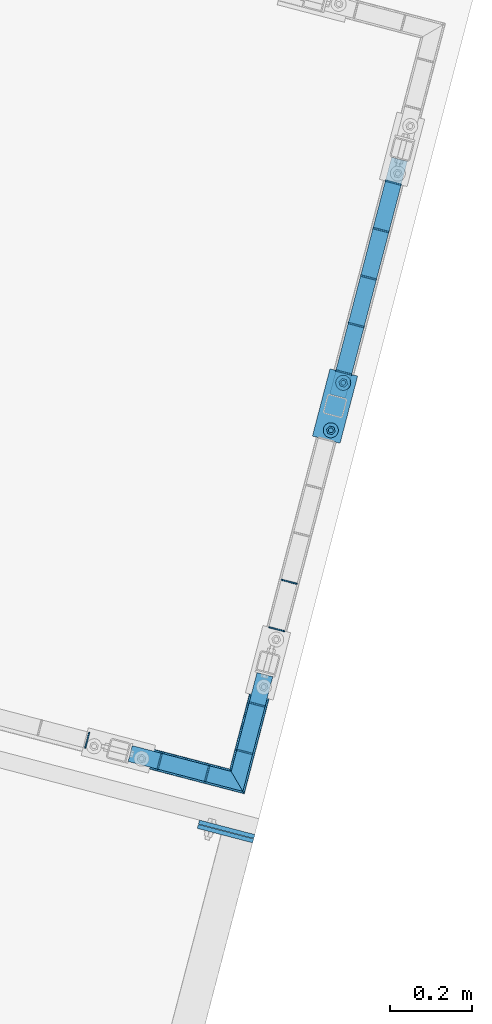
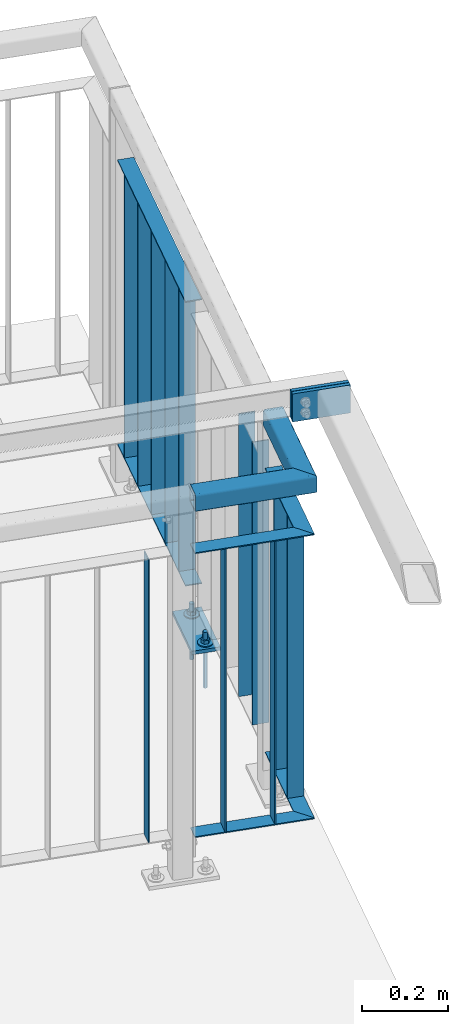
# One storey, part 96 of 169: 23 discrete accessories, 1 mechanical fastener, 3 elements without a shape of their own.
"""IFC2X3 building model written with IfcOpenShell, lengths in millimetres."""

from ifc_helpers import new_model, si_unit, frame, frame_2d, origin_with_axes, origin_2d_with_axis, place, context, subcontext, project, spatial, polyline, circle_curve, parameter, trimmed, segment, composite_curve, rectangle, hollow_rectangle, circle, outline, extrude, boolean, clip, halfspace, source, transform, mapped, material, type_object, element, aggregate, save


model = new_model("IFC2X3")

# Units and contexts
model_context = context("Model", 3, precision=1e-05, world=origin_with_axes())
body_context = subcontext(model_context, "Body", "Model", "MODEL_VIEW")
ifc_project = project(units=[si_unit("LENGTHUNIT", "METRE", prefix="MILLI"), si_unit("AREAUNIT", "SQUARE_METRE"), si_unit("VOLUMEUNIT", "CUBIC_METRE"), si_unit("MASSUNIT", "GRAM", prefix="KILO"), si_unit("TIMEUNIT", "SECOND"), si_unit("PLANEANGLEUNIT", "RADIAN"), si_unit("SOLIDANGLEUNIT", "STERADIAN"), si_unit("THERMODYNAMICTEMPERATUREUNIT", "DEGREE_CELSIUS"), si_unit("LUMINOUSINTENSITYUNIT", "LUMEN")], contexts=[model_context])

# Site, building, storey
site_placement = place(None, origin_with_axes())
site = spatial("IfcSite", under=ifc_project, at=site_placement, Name="Undefined", CompositionType="ELEMENT")
building_placement = place(site_placement, origin_with_axes())
building = spatial("IfcBuilding", under=site, at=building_placement, Name="Undefined", CompositionType="ELEMENT")
storey_placement = place(building_placement, origin_with_axes())
storey = spatial("IfcBuildingStorey", under=building, at=storey_placement, Name="Undefined", CompositionType="ELEMENT", Elevation=0.0)

# Assembly, discrete accessory
assembly_1_placement = place(storey_placement, origin_with_axes())
assembly_1 = element("IfcElementAssembly", 1, at=assembly_1_placement, inside=storey, Name="Steel Assembly", AssemblyPlace="NOTDEFINED", PredefinedType="RIGID_FRAME")
ifc_material_1 = material(Name="STEEL/S235")
discrete_accessory_type_1 = type_object("IfcDiscreteAccessoryType", Name="BLACHA")
discrete_accessory_1_placement = place(assembly_1_placement, frame((-6866.09039604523, 21454.9196996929, 12570.4183763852), z_axis=(0.0, 0.0, 1.0), x_axis=(0.967563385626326, -0.252628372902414, 0.0)))
discrete_accessory_1 = element("IfcDiscreteAccessory", 2, at=discrete_accessory_1_placement, type_object=discrete_accessory_type_1, material=ifc_material_1, Name="BLACHA", ObjectType="BL10*170", context=body_context, shape_type="SweptSolid", body=[
    extrude(outline(polyline([(-5.82076609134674e-11, -84.99999999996), (5.82076609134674e-11, 84.99999999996), (70.0000000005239, 84.9999999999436), (70.0000000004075, -84.9999999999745), (-5.82076609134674e-11, -84.99999999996)])), frame((-1.81898926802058e-12, -1.18000176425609e-16, -5.00000000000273), z_axis=(0.0, 0.0, 1.0), x_axis=(1.0, 0.0, 0.0)), (0.0, 0.0, 1.0), 10.0),
])

assembly_2_placement = place(storey_placement, origin_with_axes())
assembly_2 = element("IfcElementAssembly", 3, at=assembly_2_placement, inside=storey, Name="Steel Assembly", AssemblyPlace="NOTDEFINED", PredefinedType="RIGID_FRAME")
discrete_accessory_2_placement = place(assembly_2_placement, frame((-7100.14752107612, 20400.1391888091, 13910.4176082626), z_axis=(-0.252628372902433, -0.967563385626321, 0.0), x_axis=(0.0, 0.0, 1.0)))
discrete_accessory_2 = element("IfcDiscreteAccessory", 4, at=discrete_accessory_2_placement, type_object=discrete_accessory_type_1, material=ifc_material_1, Name="BLACHA", ObjectType="BL10*140", context=body_context, shape_type="SweptSolid", body=[
    extrude(outline(polyline([(1.4915713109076e-10, 69.9999999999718), (79.9999999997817, 69.999999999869), (79.9999999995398, -70.00000000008), (-1.4915713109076e-10, -69.9999999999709), (1.4915713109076e-10, 69.9999999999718)])), frame((-1.81898926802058e-12, -1.18000176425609e-16, -5.00000000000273), z_axis=(0.0, 0.0, 1.0), x_axis=(1.0, 0.0, 0.0)), (0.0, 0.0, 1.0), 10.0),
])
aggregate(assembly_2, [discrete_accessory_2])

assembly_3_placement = place(storey_placement, origin_with_axes())
assembly_3 = element("IfcElementAssembly", 5, at=assembly_3_placement, inside=storey, Name="Steel Assembly", AssemblyPlace="NOTDEFINED", PredefinedType="RIGID_FRAME")
discrete_accessory_3_placement = place(assembly_3_placement, frame((-7097.3686089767, 20410.7823860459, 13910.417608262), z_axis=(-0.252628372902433, -0.967563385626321, 0.0), x_axis=(0.0, 0.0, 1.0)))
discrete_accessory_3 = element("IfcDiscreteAccessory", 6, at=discrete_accessory_3_placement, type_object=discrete_accessory_type_1, material=ifc_material_1, Name="BLACHA", ObjectType="BL10*140", context=body_context, shape_type="SweptSolid", body=[
    extrude(outline(polyline([(1.4915713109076e-10, 69.9999999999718), (79.9999999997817, 69.999999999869), (79.9999999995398, -70.00000000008), (-1.4915713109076e-10, -69.9999999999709), (1.4915713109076e-10, 69.9999999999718)])), frame((-1.81898926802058e-12, -1.18000176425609e-16, -5.00000000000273), z_axis=(0.0, 0.0, 1.0), x_axis=(1.0, 0.0, 0.0)), (0.0, 0.0, 1.0), 10.0),
])
aggregate(assembly_3, [discrete_accessory_3])

# Discrete accessory
discrete_accessory_type_2 = type_object("IfcDiscreteAccessoryType", Name="PORĘCZ")
discrete_accessory_4_placement = place(assembly_1_placement, frame((-6680.97682356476, 22025.3588521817, 13495.4183763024), z_axis=(-2.54700353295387e-10, 0.0, -1.0), x_axis=(-0.252628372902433, -0.967563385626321, 0.0)))
discrete_accessory_4 = element("IfcDiscreteAccessory", 7, at=discrete_accessory_4_placement, type_object=discrete_accessory_type_2, material=ifc_material_1, Name="PORĘCZ", ObjectType="BL40*3", context=body_context, shape_type="CSG", body=[
    boolean("DIFFERENCE", boolean("DIFFERENCE", boolean("DIFFERENCE", extrude(outline(polyline([(573.700978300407, 20.0000000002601), (573.700978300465, -19.9999999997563), (-25.3036339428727, -20.00000000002), (-25.3036339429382, 19.9999999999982), (573.700978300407, 20.0000000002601)])), frame((1.81898940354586e-12, -1.77635442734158e-15, -1.50000000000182), z_axis=(0.0, 0.0, 1.0), x_axis=(1.0, 0.0, 0.0)), (0.0, 0.0, 1.0), 3.0), extrude(rectangle(XDim=51.0, YDim=51.0, at=origin_2d_with_axis()), frame((-51.0000000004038, 1.04846549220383e-08, -140.0), z_axis=(0.0, 0.0, 1.0), x_axis=(1.0, 0.0, 0.0)), (0.0, 0.0, 1.0), 280.0)), halfspace(frame((-25.30363394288, 1000.00000000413, 0.0), z_axis=(1.0, 0.0, 0.0), x_axis=(-2.54700353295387e-10, 0.0, -1.0)), True)), halfspace(frame((573.700978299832, 1000.00000000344, 0.0), z_axis=(-1.0, -3.46944695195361e-18, -1.38777878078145e-17), x_axis=(0.0, 0.0, 1.0)), True)),
])

discrete_accessory_5_placement = place(assembly_1_placement, frame((-6689.5470183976, 21992.5351173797, 13640.4183763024), z_axis=(0.252628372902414, 0.967563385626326, 0.0), x_axis=(-2.54700353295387e-10, 0.0, -1.0)))
discrete_accessory_5 = element("IfcDiscreteAccessory", 8, at=discrete_accessory_5_placement, type_object=discrete_accessory_type_2, material=ifc_material_1, Name="PORĘCZ", ObjectType="BL40*3", context=body_context, shape_type="Clipping", body=[
    clip(clip(extrude(outline(polyline([(953.5, 20.0000000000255), (953.5, -20.0000000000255), (146.5, -20.0000000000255), (146.5, 20.0000000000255), (953.5, 20.0000000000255)])), frame((1.81898940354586e-12, -1.77635442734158e-15, -1.50000000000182), z_axis=(0.0, 0.0, 1.0), x_axis=(1.0, 0.0, 0.0)), (0.0, 0.0, 1.0), 3.0), halfspace(frame((146.5, 1000.00000000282, -1.78988557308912e-09), z_axis=(1.0, 0.0, 0.0), x_axis=(-2.54700353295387e-10, 0.0, -1.0)), True)), halfspace(frame((953.5, 999.999999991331, -2.08819983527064e-09), z_axis=(-1.0, -3.46944695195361e-18, -1.38777878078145e-17), x_axis=(0.0, 0.0, 1.0)), True)),
])

discrete_accessory_6_placement = place(assembly_1_placement, frame((-6719.86242314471, 21876.4275111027, 13640.4183763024), z_axis=(0.252628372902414, 0.967563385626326, 0.0), x_axis=(-2.54700353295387e-10, 0.0, -1.0)))
discrete_accessory_6 = element("IfcDiscreteAccessory", 9, at=discrete_accessory_6_placement, type_object=discrete_accessory_type_2, material=ifc_material_1, Name="PORĘCZ", ObjectType="BL40*3", context=body_context, shape_type="Clipping", body=[
    clip(clip(extrude(outline(polyline([(953.5, 20.0000000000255), (953.5, -20.0000000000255), (146.5, -20.0000000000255), (146.5, 20.0000000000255), (953.5, 20.0000000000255)])), frame((1.81898940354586e-12, -1.77635442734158e-15, -1.50000000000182), z_axis=(0.0, 0.0, 1.0), x_axis=(1.0, 0.0, 0.0)), (0.0, 0.0, 1.0), 3.0), halfspace(frame((146.5, 1000.00000000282, -1.78988557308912e-09), z_axis=(1.0, 0.0, 0.0), x_axis=(-2.54700353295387e-10, 0.0, -1.0)), True)), halfspace(frame((953.5, 999.999999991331, -2.08819983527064e-09), z_axis=(-1.0, -3.46944695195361e-18, -1.38777878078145e-17), x_axis=(0.0, 0.0, 1.0)), True)),
])

discrete_accessory_7_placement = place(assembly_1_placement, frame((-6750.17782789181, 21760.3199048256, 13640.4183763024), z_axis=(0.252628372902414, 0.967563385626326, 0.0), x_axis=(-2.54700353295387e-10, 0.0, -1.0)))
discrete_accessory_7 = element("IfcDiscreteAccessory", 10, at=discrete_accessory_7_placement, type_object=discrete_accessory_type_2, material=ifc_material_1, Name="PORĘCZ", ObjectType="BL40*3", context=body_context, shape_type="Clipping", body=[
    clip(clip(extrude(outline(polyline([(953.5, 20.0000000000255), (953.5, -20.0000000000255), (146.5, -20.0000000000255), (146.5, 20.0000000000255), (953.5, 20.0000000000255)])), frame((1.81898940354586e-12, -1.77635442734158e-15, -1.50000000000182), z_axis=(0.0, 0.0, 1.0), x_axis=(1.0, 0.0, 0.0)), (0.0, 0.0, 1.0), 3.0), halfspace(frame((146.5, 1000.00000000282, -1.78988557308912e-09), z_axis=(1.0, 0.0, 0.0), x_axis=(-2.54700353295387e-10, 0.0, -1.0)), True)), halfspace(frame((953.5, 999.999999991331, -2.08819983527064e-09), z_axis=(-1.0, -3.46944695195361e-18, -1.38777878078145e-17), x_axis=(0.0, 0.0, 1.0)), True)),
])

discrete_accessory_8_placement = place(assembly_1_placement, frame((-6780.49323263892, 21644.2122985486, 13640.4183763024), z_axis=(0.252628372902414, 0.967563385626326, 0.0), x_axis=(-2.54700353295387e-10, 0.0, -1.0)))
discrete_accessory_8 = element("IfcDiscreteAccessory", 11, at=discrete_accessory_8_placement, type_object=discrete_accessory_type_2, material=ifc_material_1, Name="PORĘCZ", ObjectType="BL40*3", context=body_context, shape_type="Clipping", body=[
    clip(clip(extrude(outline(polyline([(953.5, 20.0000000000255), (953.5, -20.0000000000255), (146.5, -20.0000000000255), (146.5, 20.0000000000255), (953.5, 20.0000000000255)])), frame((1.81898940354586e-12, -1.77635442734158e-15, -1.50000000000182), z_axis=(0.0, 0.0, 1.0), x_axis=(1.0, 0.0, 0.0)), (0.0, 0.0, 1.0), 3.0), halfspace(frame((146.5, 1000.00000000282, -1.78988557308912e-09), z_axis=(1.0, 0.0, 0.0), x_axis=(-2.54700353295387e-10, 0.0, -1.0)), True)), halfspace(frame((953.5, 999.999999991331, -2.08819983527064e-09), z_axis=(-1.0, -3.46944695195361e-18, -1.38777878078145e-17), x_axis=(0.0, 0.0, 1.0)), True)),
])

discrete_accessory_9_placement = place(assembly_1_placement, frame((-6810.80863738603, 21528.1046922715, 13640.4183763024), z_axis=(0.252628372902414, 0.967563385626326, 0.0), x_axis=(-2.54700353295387e-10, 0.0, -1.0)))
discrete_accessory_9 = element("IfcDiscreteAccessory", 12, at=discrete_accessory_9_placement, type_object=discrete_accessory_type_2, material=ifc_material_1, Name="PORĘCZ", ObjectType="BL40*3", context=body_context, shape_type="Clipping", body=[
    clip(clip(extrude(outline(polyline([(953.5, 20.0000000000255), (953.5, -20.0000000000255), (146.5, -20.0000000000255), (146.5, 20.0000000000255), (953.5, 20.0000000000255)])), frame((1.81898940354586e-12, -1.77635442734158e-15, -1.50000000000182), z_axis=(0.0, 0.0, 1.0), x_axis=(1.0, 0.0, 0.0)), (0.0, 0.0, 1.0), 3.0), halfspace(frame((146.5, 1000.00000000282, -1.78988557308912e-09), z_axis=(1.0, 0.0, 0.0), x_axis=(-2.54700353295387e-10, 0.0, -1.0)), True)), halfspace(frame((953.5, 999.999999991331, -2.08819983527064e-09), z_axis=(-1.0, -3.46944695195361e-18, -1.38777878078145e-17), x_axis=(0.0, 0.0, 1.0)), True)),
])

discrete_accessory_10_placement = place(assembly_1_placement, frame((-6680.97682357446, 22025.3588521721, 12685.4183763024), z_axis=(-2.54700353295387e-10, 0.0, -1.0), x_axis=(-0.252628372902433, -0.967563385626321, 0.0)))
discrete_accessory_10 = element("IfcDiscreteAccessory", 13, at=discrete_accessory_10_placement, type_object=discrete_accessory_type_2, material=ifc_material_1, Name="PORĘCZ", ObjectType="BL40*3", context=body_context, shape_type="CSG", body=[
    boolean("DIFFERENCE", boolean("DIFFERENCE", boolean("DIFFERENCE", extrude(outline(polyline([(573.700978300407, 20.0000000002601), (573.700978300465, -19.9999999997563), (-25.3036339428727, -20.00000000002), (-25.3036339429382, 19.9999999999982), (573.700978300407, 20.0000000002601)])), frame((1.81898940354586e-12, -1.77635442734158e-15, -1.50000000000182), z_axis=(0.0, 0.0, 1.0), x_axis=(1.0, 0.0, 0.0)), (0.0, 0.0, 1.0), 3.0), extrude(rectangle(XDim=51.0, YDim=51.0, at=origin_2d_with_axis()), frame((-51.0000000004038, 1.04846549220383e-08, -140.0), z_axis=(0.0, 0.0, 1.0), x_axis=(1.0, 0.0, 0.0)), (0.0, 0.0, 1.0), 280.0)), halfspace(frame((-25.30363394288, 1000.00000000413, 0.0), z_axis=(1.0, 0.0, 0.0), x_axis=(-2.54700353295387e-10, 0.0, -1.0)), True)), halfspace(frame((573.700978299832, 1000.00000000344, 0.0), z_axis=(-1.0, -3.46944695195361e-18, -1.38777878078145e-17), x_axis=(0.0, 0.0, 1.0)), True)),
])

discrete_accessory_11_placement = place(assembly_1_placement, frame((-7362.24018429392, 20603.6441028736, 13495.4183763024), z_axis=(0.0, 0.0, 1.0), x_axis=(0.967563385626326, -0.252628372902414, 0.0)))
discrete_accessory_11 = element("IfcDiscreteAccessory", 14, at=discrete_accessory_11_placement, type_object=discrete_accessory_type_2, material=ifc_material_1, Name="PORĘCZ", ObjectType="BL40*3", context=body_context, shape_type="CSG", body=[
    boolean("DIFFERENCE", boolean("DIFFERENCE", boolean("DIFFERENCE", boolean("DIFFERENCE", extrude(outline(polyline([(29.999999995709, 20.0000000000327), (279.99999995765, 20.0000000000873), (319.999999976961, -19.9999999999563), (29.9999999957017, -20.0000000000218), (29.999999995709, 20.0000000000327)])), frame((1.81898940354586e-12, -1.77635442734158e-15, -1.50000000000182), z_axis=(0.0, 0.0, 1.0), x_axis=(1.0, 0.0, 0.0)), (0.0, 0.0, 1.0), 3.0), extrude(rectangle(XDim=51.0, YDim=51.0, at=origin_2d_with_axis()), frame((1.51339918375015e-09, -3.99813870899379e-09, 140.0), z_axis=(-2.54700353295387e-10, 0.0, -1.0), x_axis=(-1.0, -3.46944695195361e-18, -1.38777878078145e-17)), (0.0, 0.0, 1.0), 280.0)), halfspace(frame((29.9999999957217, 999.999999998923, 0.0), z_axis=(1.0, 0.0, 0.0), x_axis=(-2.54700353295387e-10, 0.0, -1.0)), True)), halfspace(frame((319.999999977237, -20.0000000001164, 0.0), z_axis=(0.707106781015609, 0.707106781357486, 0.0), x_axis=(0.0, 0.0, 1.0)), False)), halfspace(frame((24.9999999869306, 1000.00000000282, -1.78988557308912e-09), z_axis=(1.0, 0.0, 0.0), x_axis=(-2.54700353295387e-10, 0.0, -1.0)), True)),
])

discrete_accessory_12_placement = place(assembly_1_placement, frame((-7261.12981049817, 20577.2444379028, 13640.4183763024), z_axis=(0.967563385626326, -0.252628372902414, 0.0), x_axis=(-2.54700353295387e-10, 0.0, -1.0)))
discrete_accessory_12 = element("IfcDiscreteAccessory", 15, at=discrete_accessory_12_placement, type_object=discrete_accessory_type_2, material=ifc_material_1, Name="PORĘCZ", ObjectType="BL40*3", context=body_context, shape_type="Clipping", body=[
    clip(clip(clip(extrude(outline(polyline([(953.5, -20.0000000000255), (146.5, -20.0000000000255), (146.5, 20.0000000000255), (953.5, 20.0000000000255), (953.5, -20.0000000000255)])), frame((1.81898940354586e-12, -1.77635442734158e-15, -1.50000000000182), z_axis=(0.0, 0.0, 1.0), x_axis=(1.0, 0.0, 0.0)), (0.0, 0.0, 1.0), 3.0), halfspace(frame((146.5, 1000.00000000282, -1.78988557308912e-09), z_axis=(1.0, 0.0, 0.0), x_axis=(-2.54700353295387e-10, 0.0, -1.0)), True)), halfspace(frame((953.5, 999.999999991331, -2.08819983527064e-09), z_axis=(-1.0, -3.46944695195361e-18, -1.38777878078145e-17), x_axis=(0.0, 0.0, 1.0)), True)), halfspace(frame((24.9999999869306, 1000.00000000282, -1.78988557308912e-09), z_axis=(1.0, 0.0, 0.0), x_axis=(-2.54700353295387e-10, 0.0, -1.0)), True)),
])

discrete_accessory_13_placement = place(assembly_1_placement, frame((-7145.02220422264, 20546.9290331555, 13640.4183763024), z_axis=(0.967563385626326, -0.252628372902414, 0.0), x_axis=(-2.54700353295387e-10, 0.0, -1.0)))
discrete_accessory_13 = element("IfcDiscreteAccessory", 16, at=discrete_accessory_13_placement, type_object=discrete_accessory_type_2, material=ifc_material_1, Name="PORĘCZ", ObjectType="BL40*3", context=body_context, shape_type="Clipping", body=[
    clip(clip(clip(extrude(outline(polyline([(953.5, -20.0000000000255), (146.5, -20.0000000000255), (146.5, 20.0000000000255), (953.5, 20.0000000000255), (953.5, -20.0000000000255)])), frame((1.81898940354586e-12, -1.77635442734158e-15, -1.50000000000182), z_axis=(0.0, 0.0, 1.0), x_axis=(1.0, 0.0, 0.0)), (0.0, 0.0, 1.0), 3.0), halfspace(frame((146.5, 1000.00000000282, -1.78988557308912e-09), z_axis=(1.0, 0.0, 0.0), x_axis=(-2.54700353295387e-10, 0.0, -1.0)), True)), halfspace(frame((953.5, 999.999999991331, -2.08819983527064e-09), z_axis=(-1.0, -3.46944695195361e-18, -1.38777878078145e-17), x_axis=(0.0, 0.0, 1.0)), True)), halfspace(frame((24.9999999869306, 1000.00000000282, -1.78988557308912e-09), z_axis=(1.0, 0.0, 0.0), x_axis=(-2.54700353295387e-10, 0.0, -1.0)), True)),
])

discrete_accessory_14_placement = place(assembly_1_placement, frame((-7362.24018430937, 20603.644102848, 12685.4183763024), z_axis=(0.0, 0.0, 1.0), x_axis=(0.967563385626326, -0.252628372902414, 0.0)))
discrete_accessory_14 = element("IfcDiscreteAccessory", 17, at=discrete_accessory_14_placement, type_object=discrete_accessory_type_2, material=ifc_material_1, Name="PORĘCZ", ObjectType="BL40*3", context=body_context, shape_type="CSG", body=[
    boolean("DIFFERENCE", boolean("DIFFERENCE", boolean("DIFFERENCE", boolean("DIFFERENCE", extrude(outline(polyline([(29.999999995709, 20.0000000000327), (279.99999995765, 20.0000000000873), (319.999999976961, -19.9999999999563), (29.9999999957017, -20.0000000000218), (29.999999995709, 20.0000000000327)])), frame((1.81898940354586e-12, -1.77635442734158e-15, -1.50000000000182), z_axis=(0.0, 0.0, 1.0), x_axis=(1.0, 0.0, 0.0)), (0.0, 0.0, 1.0), 3.0), extrude(rectangle(XDim=51.0, YDim=51.0, at=origin_2d_with_axis()), frame((1.51339918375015e-09, -3.99813870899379e-09, 140.0), z_axis=(-2.54700353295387e-10, 0.0, -1.0), x_axis=(-1.0, -3.46944695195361e-18, -1.38777878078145e-17)), (0.0, 0.0, 1.0), 280.0)), halfspace(frame((29.9999999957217, 999.999999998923, 0.0), z_axis=(1.0, 0.0, 0.0), x_axis=(-2.54700353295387e-10, 0.0, -1.0)), True)), halfspace(frame((319.999999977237, -20.0000000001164, 0.0), z_axis=(0.707106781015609, 0.707106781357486, 0.0), x_axis=(0.0, 0.0, 1.0)), False)), halfspace(frame((24.9999999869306, 1000.00000000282, -1.78988557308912e-09), z_axis=(1.0, 0.0, 0.0), x_axis=(-2.54700353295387e-10, 0.0, -1.0)), True)),
])

discrete_accessory_15_placement = place(assembly_1_placement, frame((-7085.61310075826, 20475.6071682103, 13495.4183763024), z_axis=(0.0, 0.0, 1.0), x_axis=(0.252628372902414, 0.967563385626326, 0.0)))
discrete_accessory_15 = element("IfcDiscreteAccessory", 18, at=discrete_accessory_15_placement, type_object=discrete_accessory_type_2, material=ifc_material_1, Name="PORĘCZ", ObjectType="BL40*3", context=body_context, shape_type="CSG", body=[
    boolean("DIFFERENCE", boolean("DIFFERENCE", boolean("DIFFERENCE", boolean("DIFFERENCE", extrude(outline(polyline([(73.9999999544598, 19.9999999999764), (324.000000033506, 19.9999999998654), (324.000000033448, -20.0000000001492), (33.9999999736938, -20.0000000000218), (73.9999999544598, 19.9999999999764)])), frame((1.81898940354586e-12, -1.77635442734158e-15, -1.50000000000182), z_axis=(0.0, 0.0, 1.0), x_axis=(1.0, 0.0, 0.0)), (0.0, 0.0, 1.0), 3.0), extrude(rectangle(XDim=51.0, YDim=51.0, at=origin_2d_with_axis()), frame((354.000000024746, -5.61885826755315e-09, 140.0), z_axis=(-2.54700353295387e-10, 0.0, -1.0), x_axis=(-1.0, -3.46944695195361e-18, -1.38777878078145e-17)), (0.0, 0.0, 1.0), 280.0)), halfspace(frame((324.000000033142, 1000.00000000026, 0.0), z_axis=(-1.0, -3.46944695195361e-18, -1.38777878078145e-17), x_axis=(0.0, 0.0, 1.0)), True)), halfspace(frame((33.9999999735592, -20.0000000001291, 0.0), z_axis=(0.707106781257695, -0.7071067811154, 8.78533101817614e-11), x_axis=(0.0, 0.0, 1.0)), True)), halfspace(frame((329.000000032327, 1000.00000000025, 0.0), z_axis=(-1.0, -3.46944695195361e-18, -1.38777878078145e-17), x_axis=(0.0, 0.0, 1.0)), True)),
])

discrete_accessory_16_placement = place(assembly_1_placement, frame((-7053.13118495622, 20600.0124836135, 13640.4183763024), z_axis=(0.252628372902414, 0.967563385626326, 0.0), x_axis=(-2.54700353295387e-10, 0.0, -1.0)))
discrete_accessory_16 = element("IfcDiscreteAccessory", 19, at=discrete_accessory_16_placement, type_object=discrete_accessory_type_2, material=ifc_material_1, Name="PORĘCZ", ObjectType="BL40*3", context=body_context, shape_type="Clipping", body=[
    clip(clip(clip(extrude(outline(polyline([(953.5, 20.0000000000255), (953.5, -20.0000000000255), (146.5, -20.0000000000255), (146.5, 20.0000000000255), (953.5, 20.0000000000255)])), frame((1.81898940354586e-12, -1.77635442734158e-15, -1.50000000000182), z_axis=(0.0, 0.0, 1.0), x_axis=(1.0, 0.0, 0.0)), (0.0, 0.0, 1.0), 3.0), halfspace(frame((146.5, 1000.00000000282, -1.78988557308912e-09), z_axis=(1.0, 0.0, 0.0), x_axis=(-2.54700353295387e-10, 0.0, -1.0)), True)), halfspace(frame((953.5, 999.999999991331, -2.08819983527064e-09), z_axis=(-1.0, -3.46944695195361e-18, -1.38777878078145e-17), x_axis=(0.0, 0.0, 1.0)), True)), halfspace(frame((24.9999999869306, 1000.00000000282, -1.78988557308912e-09), z_axis=(1.0, 0.0, 0.0), x_axis=(-2.54700353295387e-10, 0.0, -1.0)), True)),
])

discrete_accessory_17_placement = place(assembly_1_placement, frame((-7022.81578020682, 20716.12008989, 13640.4183763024), z_axis=(0.252628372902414, 0.967563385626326, 0.0), x_axis=(-2.54700353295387e-10, 0.0, -1.0)))
discrete_accessory_17 = element("IfcDiscreteAccessory", 20, at=discrete_accessory_17_placement, type_object=discrete_accessory_type_2, material=ifc_material_1, Name="PORĘCZ", ObjectType="BL40*3", context=body_context, shape_type="Clipping", body=[
    clip(clip(clip(extrude(outline(polyline([(953.5, 20.0000000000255), (953.5, -20.0000000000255), (146.5, -20.0000000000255), (146.5, 20.0000000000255), (953.5, 20.0000000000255)])), frame((1.81898940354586e-12, -1.77635442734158e-15, -1.50000000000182), z_axis=(0.0, 0.0, 1.0), x_axis=(1.0, 0.0, 0.0)), (0.0, 0.0, 1.0), 3.0), halfspace(frame((146.5, 1000.00000000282, -1.78988557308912e-09), z_axis=(1.0, 0.0, 0.0), x_axis=(-2.54700353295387e-10, 0.0, -1.0)), True)), halfspace(frame((953.5, 999.999999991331, -2.08819983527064e-09), z_axis=(-1.0, -3.46944695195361e-18, -1.38777878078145e-17), x_axis=(0.0, 0.0, 1.0)), True)), halfspace(frame((24.9999999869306, 1000.00000000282, -1.78988557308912e-09), z_axis=(1.0, 0.0, 0.0), x_axis=(-2.54700353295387e-10, 0.0, -1.0)), True)),
])

discrete_accessory_18_placement = place(assembly_1_placement, frame((-7085.6131007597, 20475.6071682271, 12685.4183763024), z_axis=(0.0, 0.0, 1.0), x_axis=(0.252628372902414, 0.967563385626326, 0.0)))
discrete_accessory_18 = element("IfcDiscreteAccessory", 21, at=discrete_accessory_18_placement, type_object=discrete_accessory_type_2, material=ifc_material_1, Name="PORĘCZ", ObjectType="BL40*3", context=body_context, shape_type="CSG", body=[
    boolean("DIFFERENCE", boolean("DIFFERENCE", boolean("DIFFERENCE", boolean("DIFFERENCE", extrude(outline(polyline([(73.9999999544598, 19.9999999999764), (324.000000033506, 19.9999999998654), (324.000000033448, -20.0000000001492), (33.9999999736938, -20.0000000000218), (73.9999999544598, 19.9999999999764)])), frame((1.81898940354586e-12, -1.77635442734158e-15, -1.50000000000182), z_axis=(0.0, 0.0, 1.0), x_axis=(1.0, 0.0, 0.0)), (0.0, 0.0, 1.0), 3.0), extrude(rectangle(XDim=51.0, YDim=51.0, at=origin_2d_with_axis()), frame((354.000000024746, -5.61885826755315e-09, 140.0), z_axis=(-2.54700353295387e-10, 0.0, -1.0), x_axis=(-1.0, -3.46944695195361e-18, -1.38777878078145e-17)), (0.0, 0.0, 1.0), 280.0)), halfspace(frame((324.000000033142, 1000.00000000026, 0.0), z_axis=(-1.0, -3.46944695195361e-18, -1.38777878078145e-17), x_axis=(0.0, 0.0, 1.0)), True)), halfspace(frame((33.9999999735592, -20.0000000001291, 0.0), z_axis=(0.707106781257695, -0.7071067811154, 8.78533101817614e-11), x_axis=(0.0, 0.0, 1.0)), True)), halfspace(frame((329.000000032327, 1000.00000000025, 0.0), z_axis=(-1.0, -3.46944695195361e-18, -1.38777878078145e-17), x_axis=(0.0, 0.0, 1.0)), True)),
])

discrete_accessory_19_placement = place(assembly_1_placement, frame((-7002.49836604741, 20793.9355221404, 13640.4183763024), z_axis=(-0.967563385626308, 0.252628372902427, -1.72000000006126e-07), x_axis=(-0.252628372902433, -0.967563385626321, 0.0)))
discrete_accessory_19 = element("IfcDiscreteAccessory", 22, at=discrete_accessory_19_placement, type_object=discrete_accessory_type_2, material=ifc_material_1, Name="PORĘCZ", ObjectType="RHS50*3", context=body_context, shape_type="Clipping", body=[
    clip(clip(extrude(hollow_rectangle(XDim=50.0, YDim=50.0, WallThickness=3.0, InnerFilletRadius=3.0, OuterFilletRadius=6.0, at=origin_2d_with_axis()), frame((321.714865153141, -1.81898940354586e-12, -8.92938126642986e-15), z_axis=(-1.0, -3.46944695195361e-18, -1.38777878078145e-17), x_axis=(1.73472347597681e-18, -1.0, 0.0)), (0.0, 0.0, 1.0), 316.71), halfspace(frame((300.000000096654, -1.81898940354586e-12, -25.000000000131), z_axis=(-0.707106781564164, -2.34576254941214e-10, -0.707106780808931), x_axis=(0.0, 1.0, 0.0)), True)), halfspace(frame((4.99999708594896, 5.00222085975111e-10, 999.999999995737), z_axis=(1.0, 0.0, 0.0), x_axis=(0.0, 1.0, 0.0)), True)),
])

discrete_accessory_20_placement = place(assembly_1_placement, frame((-7438.38094821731, 20628.6966518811, 13640.4183763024), z_axis=(0.967563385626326, -0.252628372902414, 0.0), x_axis=(-2.54700353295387e-10, 0.0, -1.0)))
discrete_accessory_20 = element("IfcDiscreteAccessory", 23, at=discrete_accessory_20_placement, type_object=discrete_accessory_type_2, material=ifc_material_1, Name="PORĘCZ", ObjectType="BL40*3", context=body_context, shape_type="Clipping", body=[
    clip(clip(clip(extrude(outline(polyline([(953.5, -20.0000000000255), (146.5, -20.0000000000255), (146.5, 20.0000000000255), (953.5, 20.0000000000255), (953.5, -20.0000000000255)])), frame((1.81898940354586e-12, -1.77635442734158e-15, -1.50000000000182), z_axis=(0.0, 0.0, 1.0), x_axis=(1.0, 0.0, 0.0)), (0.0, 0.0, 1.0), 3.0), halfspace(frame((146.5, 1000.00000000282, -1.78988557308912e-09), z_axis=(1.0, 0.0, 0.0), x_axis=(-2.54700353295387e-10, 0.0, -1.0)), True)), halfspace(frame((24.9999999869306, 1000.00000000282, -1.78988557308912e-09), z_axis=(1.0, 0.0, 0.0), x_axis=(-2.54700353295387e-10, 0.0, -1.0)), True)), halfspace(frame((953.5, 999.999999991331, -2.08819983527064e-09), z_axis=(-1.0, -3.46944695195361e-18, -1.38777878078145e-17), x_axis=(0.0, 0.0, 1.0)), True)),
])

discrete_accessory_21_placement = place(assembly_1_placement, frame((-7071.97116860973, 20527.8555909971, 13640.4183763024), z_axis=(0.252628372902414, 0.967563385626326, 0.0), x_axis=(-0.967563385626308, 0.252628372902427, -1.72000000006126e-07)))
discrete_accessory_21 = element("IfcDiscreteAccessory", 24, at=discrete_accessory_21_placement, type_object=discrete_accessory_type_2, material=ifc_material_1, Name="PORĘCZ", ObjectType="RHS50*3", context=body_context, shape_type="Clipping", body=[
    clip(clip(extrude(hollow_rectangle(XDim=50.0, YDim=50.0, WallThickness=3.0, InnerFilletRadius=3.0, OuterFilletRadius=6.0, at=origin_2d_with_axis()), frame((270.000000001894, 0.0, 0.0), z_axis=(-1.0, -3.46944695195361e-18, -1.38777878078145e-17), x_axis=(1.73472347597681e-18, -1.0, 0.0)), (0.0, 0.0, 1.0), 307.59), halfspace(frame((270.000000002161, 0.0, 999.999999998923), z_axis=(-1.0, -3.46944695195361e-18, -1.38777878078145e-17), x_axis=(1.73472347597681e-18, -1.0, 0.0)), True)), halfspace(frame((-25.0000015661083, -1.09139364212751e-11, -25.0000000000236), z_axis=(-0.707106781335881, -2.34577541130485e-10, 0.707106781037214), x_axis=(0.0, 1.0, 0.0)), False)),
])

discrete_accessory_22_placement = place(assembly_1_placement, frame((-6944.45021182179, 21016.2591986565, 13640.4183763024), z_axis=(0.252628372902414, 0.967563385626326, 0.0), x_axis=(-2.54700353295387e-10, 0.0, -1.0)))
discrete_accessory_22 = element("IfcDiscreteAccessory", 25, at=discrete_accessory_22_placement, type_object=discrete_accessory_type_2, material=ifc_material_1, Name="PORĘCZ", ObjectType="BL40*3", context=body_context, shape_type="Clipping", body=[
    clip(clip(extrude(outline(polyline([(953.5, 20.0000000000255), (953.5, -20.0000000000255), (146.5, -20.0000000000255), (146.5, 20.0000000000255), (953.5, 20.0000000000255)])), frame((1.81898940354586e-12, -1.77635442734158e-15, -1.50000000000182), z_axis=(0.0, 0.0, 1.0), x_axis=(1.0, 0.0, 0.0)), (0.0, 0.0, 1.0), 3.0), halfspace(frame((146.5, 1000.00000000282, -1.78988557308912e-09), z_axis=(1.0, 0.0, 0.0), x_axis=(-2.54700353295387e-10, 0.0, -1.0)), True)), halfspace(frame((953.5, 999.999999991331, -2.08819983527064e-09), z_axis=(-1.0, -3.46944695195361e-18, -1.38777878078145e-17), x_axis=(0.0, 0.0, 1.0)), True)),
])

discrete_accessory_23_placement = place(assembly_1_placement, frame((-6974.76561656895, 20900.1515923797, 13640.4183763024), z_axis=(0.252628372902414, 0.967563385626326, 0.0), x_axis=(-2.54700353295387e-10, 0.0, -1.0)))
discrete_accessory_23 = element("IfcDiscreteAccessory", 26, at=discrete_accessory_23_placement, type_object=discrete_accessory_type_2, material=ifc_material_1, Name="PORĘCZ", ObjectType="BL40*3", context=body_context, shape_type="Clipping", body=[
    clip(clip(extrude(outline(polyline([(953.5, 20.0000000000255), (953.5, -20.0000000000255), (146.5, -20.0000000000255), (146.5, 20.0000000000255), (953.5, 20.0000000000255)])), frame((1.81898940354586e-12, -1.77635442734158e-15, -1.50000000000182), z_axis=(0.0, 0.0, 1.0), x_axis=(1.0, 0.0, 0.0)), (0.0, 0.0, 1.0), 3.0), halfspace(frame((146.5, 1000.00000000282, -1.78988557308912e-09), z_axis=(1.0, 0.0, 0.0), x_axis=(-2.54700353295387e-10, 0.0, -1.0)), True)), halfspace(frame((953.5, 999.999999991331, -2.08819983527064e-09), z_axis=(-1.0, -3.46944695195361e-18, -1.38777878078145e-17), x_axis=(0.0, 0.0, 1.0)), True)),
])

# Mechanical fastener
ifc_material_2 = material(Name="Undefined")
discrete_accessory_type_3 = type_object("IfcDiscreteAccessoryType", Name="Bolt assembly")
shared_shape = source(origin_with_axes(), body_context, "Body", "SweptSolid", [
    extrude(outline(composite_curve([segment(polyline([(-7.5, 8.5), (7.5, 8.5)]), True, "CONTINUOUS"), segment(trimmed(circle_curve(frame_2d((7.5, 0.0), x_axis=(0.0, 1.0)), 8.5), [parameter(0.0)], [parameter(3.14159265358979)], False, "PARAMETER"), True, "CONTINUOUS"), segment(polyline([(7.5, -8.5), (-7.5, -8.5)]), True, "CONTINUOUS"), segment(trimmed(circle_curve(frame_2d((-7.5, 0.0), x_axis=(0.0, -1.0)), 8.5), [parameter(0.0)], [parameter(3.14159265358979)], False, "PARAMETER"), True, "DISCONTINUOUS")], self_intersect=False)), frame((0.0, -10.0, 0.0), z_axis=(0.0, 1.0, 0.0), x_axis=(1.0, 0.0, 0.0)), (0.0, 0.0, 1.0), 10.1),
    extrude(outline(polyline([(5.80237031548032, 0.0), (2.90118515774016, 5.02500009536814), (-2.90118515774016, 5.02500009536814), (-5.80237031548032, 0.0), (-2.90118515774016, -5.02500009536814), (2.90118515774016, -5.02500009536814), (5.80237031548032, 0.0)])), frame((0.0, -126.0, 0.0), z_axis=(0.0, 1.0, 0.0), x_axis=(1.0, 0.0, 0.0)), (0.0, 0.0, 1.0), 116.0),
    extrude(circle(Radius=6.0, at=origin_2d_with_axis()), frame((0.0, -10.0, 0.0), z_axis=(0.0, 1.0, 0.0), x_axis=(1.0, 0.0, 0.0)), (0.0, 0.0, 1.0), 44.0),
    extrude(circle(Radius=18.5, at=origin_2d_with_axis()), frame((0.0, 0.0, 0.0), z_axis=(0.0, 1.0, 0.0), x_axis=(1.0, 0.0, 0.0)), (0.0, 0.0, 1.0), 3.0),
    extrude(outline(polyline([(10.96965511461, 0.0), (5.484827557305, 9.50000000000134), (-5.484827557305, 9.50000000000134), (-10.96965511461, 0.0), (-5.484827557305, -9.50000000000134), (5.484827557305, -9.50000000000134), (10.96965511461, 0.0)])), frame((0.0, 2.99999999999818, 0.0), z_axis=(0.0, 1.0, 0.0), x_axis=(1.0, 0.0, 0.0)), (0.0, 0.0, 1.0), 10.0),
])
mechanical_fastener_placement = place(assembly_1_placement, frame((-6812.87440983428, 21441.0251391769, 12575.4183763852), z_axis=(0.252628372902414, 0.967563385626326, 0.0), x_axis=(-0.967563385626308, 0.252628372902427, -1.72000000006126e-07)))
mechanical_fastener = element("IfcMechanicalFastener", 27, at=mechanical_fastener_placement, type_object=discrete_accessory_type_3, material=ifc_material_2, Name="Bolt assembly", NominalDiameter=12.0, NominalLength=44.0, context=body_context, shape_type="MappedRepresentation", body=[
    mapped(shared_shape, transform((15.0000000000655, 0.0, -59.9999999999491))),
    mapped(shared_shape, transform((15.0000000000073, 0.0, 59.9999999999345))),
])

aggregate(assembly_1, [discrete_accessory_4, discrete_accessory_5, discrete_accessory_6, discrete_accessory_7, discrete_accessory_8, discrete_accessory_9, discrete_accessory_10, mechanical_fastener, discrete_accessory_1, discrete_accessory_11, discrete_accessory_12, discrete_accessory_13, discrete_accessory_14, discrete_accessory_15, discrete_accessory_16, discrete_accessory_17, discrete_accessory_18, discrete_accessory_19, discrete_accessory_20, discrete_accessory_21, discrete_accessory_22, discrete_accessory_23])

save(model, "model.ifc")
